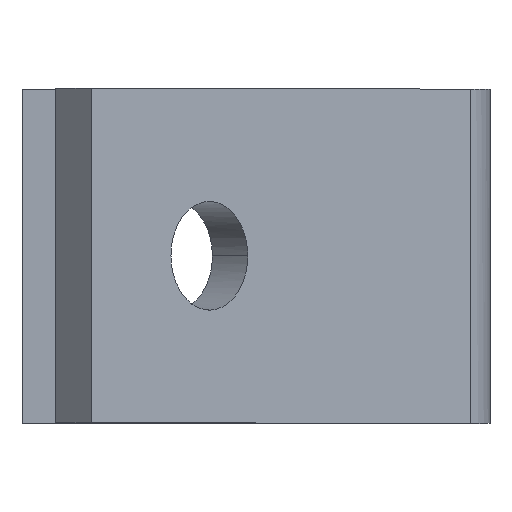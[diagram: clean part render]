
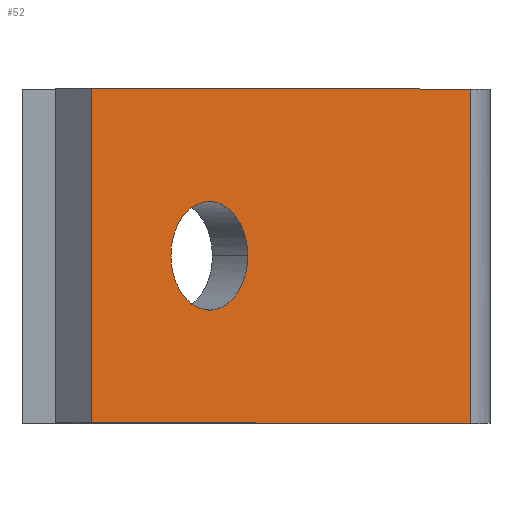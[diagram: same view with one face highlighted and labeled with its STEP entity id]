
A CAD part, top view. The second image highlights one B-rep face of the part: STEP entity #52.
In plain terms, the highlighted planar face has unit normal (0.707, 0, 0.707).
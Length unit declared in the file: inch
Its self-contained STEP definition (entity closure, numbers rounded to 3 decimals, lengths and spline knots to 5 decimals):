
#52=ADVANCED_FACE('',(#116,#117),#118,.T.);
#116=FACE_BOUND('',#198,.T.);
#117=FACE_OUTER_BOUND('',#199,.T.);
#118=PLANE('',#200);
#198=EDGE_LOOP('',(#400,#401,#402,#403));
#199=EDGE_LOOP('',(#404,#405,#406,#407));
#200=AXIS2_PLACEMENT_3D('',#408,#409,#410);
#400=ORIENTED_EDGE('',*,*,#553,.T.);
#401=ORIENTED_EDGE('',*,*,#554,.T.);
#402=ORIENTED_EDGE('',*,*,#555,.T.);
#403=ORIENTED_EDGE('',*,*,#556,.T.);
#404=ORIENTED_EDGE('',*,*,#557,.T.);
#405=ORIENTED_EDGE('',*,*,#546,.F.);
#406=ORIENTED_EDGE('',*,*,#558,.T.);
#407=ORIENTED_EDGE('',*,*,#559,.T.);
#408=CARTESIAN_POINT('',(0.96777,0.,1.13554));
#409=DIRECTION('',(0.707,0.,0.707));
#410=DIRECTION('',(0.707,0.,-0.707));
#546=EDGE_CURVE('',#633,#631,#635,.T.);
#553=EDGE_CURVE('',#646,#647,#648,.T.);
#554=EDGE_CURVE('',#647,#649,#650,.T.);
#555=EDGE_CURVE('',#649,#651,#652,.T.);
#556=EDGE_CURVE('',#651,#646,#653,.T.);
#557=EDGE_CURVE('',#654,#631,#655,.T.);
#558=EDGE_CURVE('',#633,#656,#657,.T.);
#559=EDGE_CURVE('',#656,#654,#658,.T.);
#631=VERTEX_POINT('',#796);
#633=VERTEX_POINT('',#799);
#635=LINE('',#802,#803);
#646=VERTEX_POINT('',#822);
#647=VERTEX_POINT('',#823);
#648=B_SPLINE_CURVE_WITH_KNOTS('',3,(#824,#825,#826,#827),.UNSPECIFIED.,.F.,.F.,(4,4),(-1.0,-0.0),.UNSPECIFIED.);
#649=VERTEX_POINT('',#828);
#650=B_SPLINE_CURVE_WITH_KNOTS('',3,(#829,#830,#831,#832),.UNSPECIFIED.,.F.,.F.,(4,4),(-1.0,-0.0),.UNSPECIFIED.);
#651=VERTEX_POINT('',#833);
#652=B_SPLINE_CURVE_WITH_KNOTS('',3,(#834,#835,#836,#837),.UNSPECIFIED.,.F.,.F.,(4,4),(-1.0,-0.0),.UNSPECIFIED.);
#653=B_SPLINE_CURVE_WITH_KNOTS('',3,(#838,#839,#840,#841),.UNSPECIFIED.,.F.,.F.,(4,4),(-1.0,-0.0),.UNSPECIFIED.);
#654=VERTEX_POINT('',#842);
#655=LINE('',#843,#844);
#656=VERTEX_POINT('',#845);
#657=LINE('',#846,#847);
#658=LINE('',#848,#849);
#796=CARTESIAN_POINT('',(0.25872,1.25,1.84459));
#799=CARTESIAN_POINT('',(0.25872,0.,1.84459));
#802=CARTESIAN_POINT('',(0.25872,0.,1.84459));
#803=VECTOR('',#979,1.0);
#822=CARTESIAN_POINT('',(0.70067,0.82813,1.40265));
#823=CARTESIAN_POINT('',(0.8443,0.625,1.25901));
#824=CARTESIAN_POINT('',(0.70067,0.82813,1.40265));
#825=CARTESIAN_POINT('',(0.77999,0.82813,1.32332));
#826=CARTESIAN_POINT('',(0.8443,0.73717,1.25901));
#827=CARTESIAN_POINT('',(0.8443,0.625,1.25901));
#828=CARTESIAN_POINT('',(0.70067,0.42188,1.40265));
#829=CARTESIAN_POINT('',(0.8443,0.625,1.25901));
#830=CARTESIAN_POINT('',(0.8443,0.5128,1.25901));
#831=CARTESIAN_POINT('',(0.77999,0.42188,1.32332));
#832=CARTESIAN_POINT('',(0.70067,0.42188,1.40265));
#833=CARTESIAN_POINT('',(0.55704,0.625,1.54628));
#834=CARTESIAN_POINT('',(0.70067,0.42188,1.40265));
#835=CARTESIAN_POINT('',(0.62134,0.42188,1.48197));
#836=CARTESIAN_POINT('',(0.55704,0.5128,1.54628));
#837=CARTESIAN_POINT('',(0.55704,0.625,1.54628));
#838=CARTESIAN_POINT('',(0.55704,0.625,1.54628));
#839=CARTESIAN_POINT('',(0.55704,0.73717,1.54628));
#840=CARTESIAN_POINT('',(0.62134,0.82813,1.48197));
#841=CARTESIAN_POINT('',(0.70067,0.82813,1.40265));
#842=CARTESIAN_POINT('',(1.67683,1.25,0.42649));
#843=CARTESIAN_POINT('',(0.25872,1.25,1.84459));
#844=VECTOR('',#982,1.0);
#845=CARTESIAN_POINT('',(1.67683,0.,0.42649));
#846=CARTESIAN_POINT('',(0.25872,0.,1.84459));
#847=VECTOR('',#983,1.0);
#848=CARTESIAN_POINT('',(1.67683,0.,0.42649));
#849=VECTOR('',#984,1.0);
#979=DIRECTION('',(0.,1.0,0.));
#982=DIRECTION('',(-0.707,0.,0.707));
#983=DIRECTION('',(0.707,0.,-0.707));
#984=DIRECTION('',(0.,1.0,0.));
